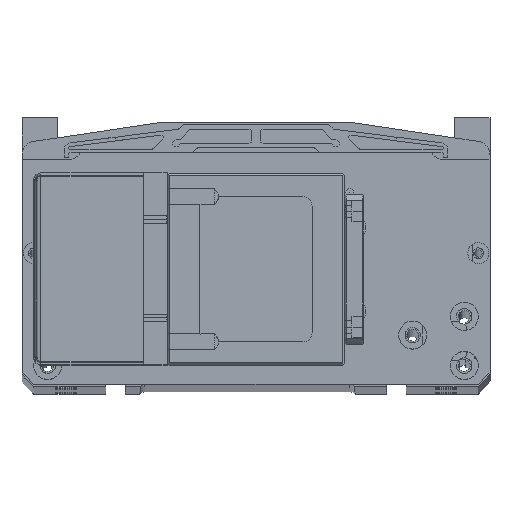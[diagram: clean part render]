
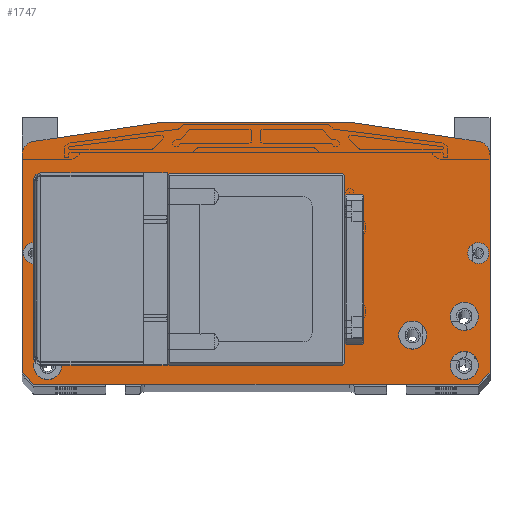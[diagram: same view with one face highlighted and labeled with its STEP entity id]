
A CAD part, top view. The second image highlights one B-rep face of the part: STEP entity #1747.
In plain terms, the highlighted planar face has unit normal (0, 0, 1).
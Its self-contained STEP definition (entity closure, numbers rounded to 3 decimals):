
#1747=ADVANCED_FACE('',(#6278,#6279,#6280,#6281,#6282,#6283,#6284,#6285,
#6286,#6287,#6288,#6289,#6290),#2813,.F.);
#2813=PLANE('',#19501);
#3290=LINE('',#26988,#4784);
#3291=LINE('',#26991,#4785);
#3292=LINE('',#26993,#4786);
#3293=LINE('',#26995,#4787);
#3294=LINE('',#26999,#4788);
#3295=LINE('',#27001,#4789);
#3296=LINE('',#27003,#4790);
#3297=LINE('',#27007,#4791);
#3298=LINE('',#27008,#4792);
#3299=LINE('',#27011,#4793);
#3300=LINE('',#27013,#4794);
#3301=LINE('',#27015,#4795);
#3302=LINE('',#27016,#4796);
#3303=LINE('',#27019,#4797);
#3304=LINE('',#27021,#4798);
#3305=LINE('',#27023,#4799);
#4784=VECTOR('',#21505,1.);
#4785=VECTOR('',#21506,1.);
#4786=VECTOR('',#21507,1.);
#4787=VECTOR('',#21508,1.);
#4788=VECTOR('',#21511,1.);
#4789=VECTOR('',#21512,1.);
#4790=VECTOR('',#21513,1.);
#4791=VECTOR('',#21516,1.);
#4792=VECTOR('',#21517,1.);
#4793=VECTOR('',#21518,1.);
#4794=VECTOR('',#21519,1.);
#4795=VECTOR('',#21520,1.);
#4796=VECTOR('',#21521,1.);
#4797=VECTOR('',#21522,1.);
#4798=VECTOR('',#21523,1.);
#4799=VECTOR('',#21524,1.);
#6278=FACE_BOUND('',#7032,.T.);
#6279=FACE_BOUND('',#7033,.T.);
#6280=FACE_BOUND('',#7034,.T.);
#6281=FACE_BOUND('',#7035,.T.);
#6282=FACE_BOUND('',#7036,.T.);
#6283=FACE_BOUND('',#7037,.T.);
#6284=FACE_BOUND('',#7038,.T.);
#6285=FACE_BOUND('',#7039,.T.);
#6286=FACE_BOUND('',#7040,.T.);
#6287=FACE_BOUND('',#7041,.T.);
#6288=FACE_BOUND('',#7042,.T.);
#6289=FACE_BOUND('',#7043,.T.);
#6290=FACE_BOUND('',#7044,.T.);
#7032=EDGE_LOOP('',(#8518));
#7033=EDGE_LOOP('',(#8519));
#7034=EDGE_LOOP('',(#8520));
#7035=EDGE_LOOP('',(#8521));
#7036=EDGE_LOOP('',(#8522));
#7037=EDGE_LOOP('',(#8523));
#7038=EDGE_LOOP('',(#8524));
#7039=EDGE_LOOP('',(#8525));
#7040=EDGE_LOOP('',(#8526));
#7041=EDGE_LOOP('',(#8527));
#7042=EDGE_LOOP('',(#8528,#8529,#8530,#8531,#8532,#8533,#8534,#8535,#8536,
#8537));
#7043=EDGE_LOOP('',(#8538,#8539,#8540,#8541));
#7044=EDGE_LOOP('',(#8542,#8543,#8544,#8545));
#8518=ORIENTED_EDGE('',*,*,#15836,.T.);
#8519=ORIENTED_EDGE('',*,*,#15837,.T.);
#8520=ORIENTED_EDGE('',*,*,#15838,.T.);
#8521=ORIENTED_EDGE('',*,*,#15839,.T.);
#8522=ORIENTED_EDGE('',*,*,#15840,.T.);
#8523=ORIENTED_EDGE('',*,*,#15841,.T.);
#8524=ORIENTED_EDGE('',*,*,#15842,.T.);
#8525=ORIENTED_EDGE('',*,*,#15843,.T.);
#8526=ORIENTED_EDGE('',*,*,#15844,.T.);
#8527=ORIENTED_EDGE('',*,*,#15845,.T.);
#8528=ORIENTED_EDGE('',*,*,#15846,.F.);
#8529=ORIENTED_EDGE('',*,*,#15847,.T.);
#8530=ORIENTED_EDGE('',*,*,#15848,.F.);
#8531=ORIENTED_EDGE('',*,*,#15849,.T.);
#8532=ORIENTED_EDGE('',*,*,#15850,.F.);
#8533=ORIENTED_EDGE('',*,*,#15851,.F.);
#8534=ORIENTED_EDGE('',*,*,#15852,.T.);
#8535=ORIENTED_EDGE('',*,*,#15853,.F.);
#8536=ORIENTED_EDGE('',*,*,#15854,.F.);
#8537=ORIENTED_EDGE('',*,*,#15855,.T.);
#8538=ORIENTED_EDGE('',*,*,#15856,.T.);
#8539=ORIENTED_EDGE('',*,*,#15857,.T.);
#8540=ORIENTED_EDGE('',*,*,#15858,.T.);
#8541=ORIENTED_EDGE('',*,*,#15859,.T.);
#8542=ORIENTED_EDGE('',*,*,#15860,.F.);
#8543=ORIENTED_EDGE('',*,*,#15861,.F.);
#8544=ORIENTED_EDGE('',*,*,#15862,.T.);
#8545=ORIENTED_EDGE('',*,*,#15863,.T.);
#13962=VERTEX_POINT('',#26969);
#13963=VERTEX_POINT('',#26971);
#13964=VERTEX_POINT('',#26973);
#13965=VERTEX_POINT('',#26975);
#13966=VERTEX_POINT('',#26977);
#13967=VERTEX_POINT('',#26979);
#13968=VERTEX_POINT('',#26981);
#13969=VERTEX_POINT('',#26983);
#13970=VERTEX_POINT('',#26985);
#13971=VERTEX_POINT('',#26987);
#13972=VERTEX_POINT('',#26989);
#13973=VERTEX_POINT('',#26990);
#13974=VERTEX_POINT('',#26992);
#13975=VERTEX_POINT('',#26994);
#13976=VERTEX_POINT('',#26996);
#13977=VERTEX_POINT('',#26998);
#13978=VERTEX_POINT('',#27000);
#13979=VERTEX_POINT('',#27002);
#13980=VERTEX_POINT('',#27004);
#13981=VERTEX_POINT('',#27006);
#13982=VERTEX_POINT('',#27009);
#13983=VERTEX_POINT('',#27010);
#13984=VERTEX_POINT('',#27012);
#13985=VERTEX_POINT('',#27014);
#13986=VERTEX_POINT('',#27017);
#13987=VERTEX_POINT('',#27018);
#13988=VERTEX_POINT('',#27020);
#13989=VERTEX_POINT('',#27022);
#15836=EDGE_CURVE('',#13962,#13962,#18558,.T.);
#15837=EDGE_CURVE('',#13963,#13963,#18559,.T.);
#15838=EDGE_CURVE('',#13964,#13964,#18560,.T.);
#15839=EDGE_CURVE('',#13965,#13965,#18561,.T.);
#15840=EDGE_CURVE('',#13966,#13966,#18562,.T.);
#15841=EDGE_CURVE('',#13967,#13967,#18563,.T.);
#15842=EDGE_CURVE('',#13968,#13968,#18564,.T.);
#15843=EDGE_CURVE('',#13969,#13969,#18565,.T.);
#15844=EDGE_CURVE('',#13970,#13970,#18566,.T.);
#15845=EDGE_CURVE('',#13971,#13971,#18567,.T.);
#15846=EDGE_CURVE('',#13972,#13973,#3290,.T.);
#15847=EDGE_CURVE('',#13972,#13974,#3291,.T.);
#15848=EDGE_CURVE('',#13975,#13974,#3292,.T.);
#15849=EDGE_CURVE('',#13975,#13976,#3293,.T.);
#15850=EDGE_CURVE('',#13977,#13976,#18568,.T.);
#15851=EDGE_CURVE('',#13978,#13977,#3294,.T.);
#15852=EDGE_CURVE('',#13978,#13979,#3295,.T.);
#15853=EDGE_CURVE('',#13980,#13979,#3296,.T.);
#15854=EDGE_CURVE('',#13981,#13980,#18569,.T.);
#15855=EDGE_CURVE('',#13981,#13973,#3297,.T.);
#15856=EDGE_CURVE('',#13982,#13983,#3298,.T.);
#15857=EDGE_CURVE('',#13983,#13984,#3299,.T.);
#15858=EDGE_CURVE('',#13984,#13985,#3300,.T.);
#15859=EDGE_CURVE('',#13985,#13982,#3301,.T.);
#15860=EDGE_CURVE('',#13986,#13987,#3302,.T.);
#15861=EDGE_CURVE('',#13988,#13986,#3303,.T.);
#15862=EDGE_CURVE('',#13988,#13989,#3304,.T.);
#15863=EDGE_CURVE('',#13989,#13987,#3305,.T.);
#18558=CIRCLE('',#19489,1.65);
#18559=CIRCLE('',#19490,1.65);
#18560=CIRCLE('',#19491,4.5);
#18561=CIRCLE('',#19492,4.5);
#18562=CIRCLE('',#19493,6.);
#18563=CIRCLE('',#19494,6.);
#18564=CIRCLE('',#19495,6.);
#18565=CIRCLE('',#19496,6.);
#18566=CIRCLE('',#19497,6.);
#18567=CIRCLE('',#19498,6.);
#18568=CIRCLE('',#19499,6.);
#18569=CIRCLE('',#19500,6.);
#19489=AXIS2_PLACEMENT_3D('',#26968,#21485,#21486);
#19490=AXIS2_PLACEMENT_3D('',#26970,#21487,#21488);
#19491=AXIS2_PLACEMENT_3D('',#26972,#21489,#21490);
#19492=AXIS2_PLACEMENT_3D('',#26974,#21491,#21492);
#19493=AXIS2_PLACEMENT_3D('',#26976,#21493,#21494);
#19494=AXIS2_PLACEMENT_3D('',#26978,#21495,#21496);
#19495=AXIS2_PLACEMENT_3D('',#26980,#21497,#21498);
#19496=AXIS2_PLACEMENT_3D('',#26982,#21499,#21500);
#19497=AXIS2_PLACEMENT_3D('',#26984,#21501,#21502);
#19498=AXIS2_PLACEMENT_3D('',#26986,#21503,#21504);
#19499=AXIS2_PLACEMENT_3D('',#26997,#21509,#21510);
#19500=AXIS2_PLACEMENT_3D('',#27005,#21514,#21515);
#19501=AXIS2_PLACEMENT_3D('',#27024,#21525,#21526);
#21485=DIRECTION('',(0.,0.,-1.));
#21486=DIRECTION('',(1.,0.,0.));
#21487=DIRECTION('',(0.,0.,-1.));
#21488=DIRECTION('',(1.,0.,0.));
#21489=DIRECTION('',(0.,0.,-1.));
#21490=DIRECTION('',(1.,0.,0.));
#21491=DIRECTION('',(0.,0.,-1.));
#21492=DIRECTION('',(1.,0.,0.));
#21493=DIRECTION('',(0.,0.,-1.));
#21494=DIRECTION('',(1.,0.,0.));
#21495=DIRECTION('',(0.,0.,-1.));
#21496=DIRECTION('',(1.,0.,0.));
#21497=DIRECTION('',(0.,0.,-1.));
#21498=DIRECTION('',(1.,0.,0.));
#21499=DIRECTION('',(0.,0.,-1.));
#21500=DIRECTION('',(1.,0.,0.));
#21501=DIRECTION('',(0.,0.,-1.));
#21502=DIRECTION('',(1.,0.,0.));
#21503=DIRECTION('',(0.,0.,-1.));
#21504=DIRECTION('',(1.,0.,0.));
#21505=DIRECTION('',(-0.707,0.707,0.));
#21506=DIRECTION('',(1.,0.,0.));
#21507=DIRECTION('',(-0.707,-0.707,0.));
#21508=DIRECTION('',(0.,1.,0.));
#21509=DIRECTION('',(0.,0.,-1.));
#21510=DIRECTION('',(0.148,0.989,0.));
#21511=DIRECTION('',(0.989,-0.148,0.));
#21512=DIRECTION('',(-1.,0.,0.));
#21513=DIRECTION('',(0.989,0.148,0.));
#21514=DIRECTION('',(0.,0.,-1.));
#21515=DIRECTION('',(-1.,0.,0.));
#21516=DIRECTION('',(0.,-1.,0.));
#21517=DIRECTION('',(0.,1.,0.));
#21518=DIRECTION('',(1.,0.,0.));
#21519=DIRECTION('',(0.,-1.,0.));
#21520=DIRECTION('',(-1.,0.,0.));
#21521=DIRECTION('',(0.,1.,0.));
#21522=DIRECTION('',(1.,0.,0.));
#21523=DIRECTION('',(0.,1.,0.));
#21524=DIRECTION('',(1.,0.,0.));
#21525=DIRECTION('',(0.,0.,-1.));
#21526=DIRECTION('',(-1.,0.,0.));
#26968=CARTESIAN_POINT('',(-42.,33.,463.));
#26969=CARTESIAN_POINT('',(-40.35,33.,463.));
#26970=CARTESIAN_POINT('',(-42.,69.,463.));
#26971=CARTESIAN_POINT('',(-40.35,69.,463.));
#26972=CARTESIAN_POINT('',(-95.,58.,463.));
#26973=CARTESIAN_POINT('',(-90.5,58.,463.));
#26974=CARTESIAN_POINT('',(95.,58.,463.));
#26975=CARTESIAN_POINT('',(99.5,58.,463.));
#26976=CARTESIAN_POINT('',(-67.,23.,463.));
#26977=CARTESIAN_POINT('',(-61.,23.,463.));
#26978=CARTESIAN_POINT('',(67.,23.,463.));
#26979=CARTESIAN_POINT('',(73.,23.,463.));
#26980=CARTESIAN_POINT('',(-89.,31.,463.));
#26981=CARTESIAN_POINT('',(-83.,31.,463.));
#26982=CARTESIAN_POINT('',(89.,31.,463.));
#26983=CARTESIAN_POINT('',(95.,31.,463.));
#26984=CARTESIAN_POINT('',(-89.,10.,463.));
#26985=CARTESIAN_POINT('',(-83.,10.,463.));
#26986=CARTESIAN_POINT('',(89.,10.,463.));
#26987=CARTESIAN_POINT('',(95.,10.,463.));
#26988=CARTESIAN_POINT('',(-95.,2.,463.));
#26989=CARTESIAN_POINT('',(-95.,2.,463.));
#26990=CARTESIAN_POINT('',(-100.,7.,463.));
#26991=CARTESIAN_POINT('',(67.5,2.,463.));
#26992=CARTESIAN_POINT('',(95.,2.,463.));
#26993=CARTESIAN_POINT('',(100.,7.,463.));
#26994=CARTESIAN_POINT('',(100.,7.,463.));
#26995=CARTESIAN_POINT('',(100.,7.,463.));
#26996=CARTESIAN_POINT('',(100.,99.833,463.));
#26997=CARTESIAN_POINT('',(94.,99.833,463.));
#26998=CARTESIAN_POINT('',(94.89,105.766,463.));
#26999=CARTESIAN_POINT('',(40.,114.,463.));
#27000=CARTESIAN_POINT('',(40.,114.,463.));
#27001=CARTESIAN_POINT('',(40.,114.,463.));
#27002=CARTESIAN_POINT('',(-40.,114.,463.));
#27003=CARTESIAN_POINT('',(-94.89,105.766,463.));
#27004=CARTESIAN_POINT('',(-94.89,105.766,463.));
#27005=CARTESIAN_POINT('',(-94.,99.833,463.));
#27006=CARTESIAN_POINT('',(-100.,99.833,463.));
#27007=CARTESIAN_POINT('',(-100.,99.833,463.));
#27008=CARTESIAN_POINT('',(-37.,91.,463.));
#27009=CARTESIAN_POINT('',(-37.,11.,463.));
#27010=CARTESIAN_POINT('',(-37.,91.,463.));
#27011=CARTESIAN_POINT('',(37.,91.,463.));
#27012=CARTESIAN_POINT('',(37.,91.,463.));
#27013=CARTESIAN_POINT('',(37.,11.,463.));
#27014=CARTESIAN_POINT('',(37.,11.,463.));
#27015=CARTESIAN_POINT('',(-37.,11.,463.));
#27016=CARTESIAN_POINT('',(45.5,80.466,463.));
#27017=CARTESIAN_POINT('',(45.5,21.534,463.));
#27018=CARTESIAN_POINT('',(45.5,80.466,463.));
#27019=CARTESIAN_POINT('',(45.5,21.534,463.));
#27020=CARTESIAN_POINT('',(38.5,21.534,463.));
#27021=CARTESIAN_POINT('',(38.5,80.466,463.));
#27022=CARTESIAN_POINT('',(38.5,80.466,463.));
#27023=CARTESIAN_POINT('',(45.5,80.466,463.));
#27024=CARTESIAN_POINT('',(0.,2.,463.));
